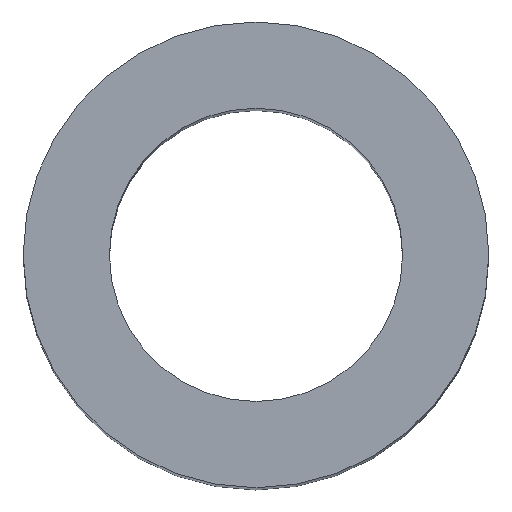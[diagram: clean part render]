
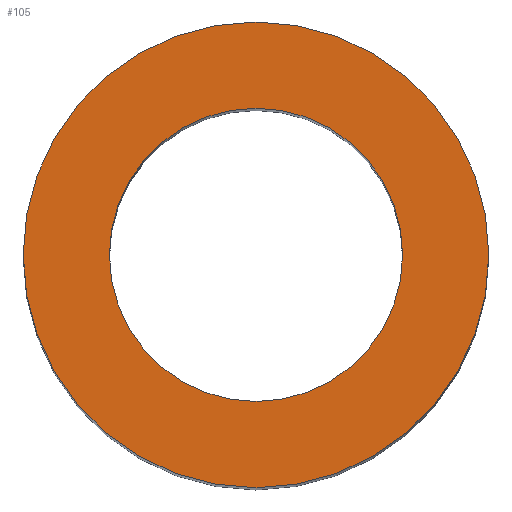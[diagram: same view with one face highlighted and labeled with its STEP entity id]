
A CAD part, top view. The second image highlights one B-rep face of the part: STEP entity #105.
In plain terms, the highlighted planar face has unit normal (0, 0, 1).
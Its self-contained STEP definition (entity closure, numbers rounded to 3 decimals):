
#21 = EDGE_CURVE('',#22,#22,#24,.T.);
#22 = VERTEX_POINT('',#23);
#23 = CARTESIAN_POINT('',(2.7,0.,15.2));
#24 = SURFACE_CURVE('',#25,(#30,#42),.PCURVE_S1.);
#25 = CIRCLE('',#26,2.7);
#26 = AXIS2_PLACEMENT_3D('',#27,#28,#29);
#27 = CARTESIAN_POINT('',(0.,0.,15.2));
#28 = DIRECTION('',(0.,0.,1.));
#29 = DIRECTION('',(1.,0.,-0.));
#30 = PCURVE('',#31,#36);
#31 = CYLINDRICAL_SURFACE('',#32,2.7);
#32 = AXIS2_PLACEMENT_3D('',#33,#34,#35);
#33 = CARTESIAN_POINT('',(0.,0.,0.));
#34 = DIRECTION('',(0.,0.,1.));
#35 = DIRECTION('',(1.,0.,-0.));
#36 = DEFINITIONAL_REPRESENTATION('',(#37),#41);
#37 = LINE('',#38,#39);
#38 = CARTESIAN_POINT('',(0.,15.2));
#39 = VECTOR('',#40,1.);
#40 = DIRECTION('',(1.,0.));
#41 = ( GEOMETRIC_REPRESENTATION_CONTEXT(2) 
PARAMETRIC_REPRESENTATION_CONTEXT() REPRESENTATION_CONTEXT('2D SPACE',''
  ) );
#42 = PCURVE('',#43,#48);
#43 = PLANE('',#44);
#44 = AXIS2_PLACEMENT_3D('',#45,#46,#47);
#45 = CARTESIAN_POINT('',(0.,0.,15.2));
#46 = DIRECTION('',(0.,0.,1.));
#47 = DIRECTION('',(1.,0.,-0.));
#48 = DEFINITIONAL_REPRESENTATION('',(#49),#53);
#49 = CIRCLE('',#50,2.7);
#50 = AXIS2_PLACEMENT_2D('',#51,#52);
#51 = CARTESIAN_POINT('',(0.,0.));
#52 = DIRECTION('',(1.,0.));
#53 = ( GEOMETRIC_REPRESENTATION_CONTEXT(2) 
PARAMETRIC_REPRESENTATION_CONTEXT() REPRESENTATION_CONTEXT('2D SPACE',''
  ) );
#105 = ADVANCED_FACE('',(#106,#109),#43,.T.);
#106 = FACE_BOUND('',#107,.T.);
#107 = EDGE_LOOP('',(#108));
#108 = ORIENTED_EDGE('',*,*,#21,.T.);
#109 = FACE_BOUND('',#110,.T.);
#110 = EDGE_LOOP('',(#111));
#111 = ORIENTED_EDGE('',*,*,#112,.F.);
#112 = EDGE_CURVE('',#113,#113,#115,.T.);
#113 = VERTEX_POINT('',#114);
#114 = CARTESIAN_POINT('',(1.7,0.,15.2));
#115 = SURFACE_CURVE('',#116,(#121,#128),.PCURVE_S1.);
#116 = CIRCLE('',#117,1.7);
#117 = AXIS2_PLACEMENT_3D('',#118,#119,#120);
#118 = CARTESIAN_POINT('',(0.,0.,15.2));
#119 = DIRECTION('',(0.,0.,1.));
#120 = DIRECTION('',(1.,0.,-0.));
#121 = PCURVE('',#43,#122);
#122 = DEFINITIONAL_REPRESENTATION('',(#123),#127);
#123 = CIRCLE('',#124,1.7);
#124 = AXIS2_PLACEMENT_2D('',#125,#126);
#125 = CARTESIAN_POINT('',(0.,0.));
#126 = DIRECTION('',(1.,0.));
#127 = ( GEOMETRIC_REPRESENTATION_CONTEXT(2) 
PARAMETRIC_REPRESENTATION_CONTEXT() REPRESENTATION_CONTEXT('2D SPACE',''
  ) );
#128 = PCURVE('',#129,#134);
#129 = CYLINDRICAL_SURFACE('',#130,1.7);
#130 = AXIS2_PLACEMENT_3D('',#131,#132,#133);
#131 = CARTESIAN_POINT('',(0.,0.,-1.));
#132 = DIRECTION('',(0.,0.,1.));
#133 = DIRECTION('',(1.,0.,-0.));
#134 = DEFINITIONAL_REPRESENTATION('',(#135),#139);
#135 = LINE('',#136,#137);
#136 = CARTESIAN_POINT('',(0.,16.2));
#137 = VECTOR('',#138,1.);
#138 = DIRECTION('',(1.,0.));
#139 = ( GEOMETRIC_REPRESENTATION_CONTEXT(2) 
PARAMETRIC_REPRESENTATION_CONTEXT() REPRESENTATION_CONTEXT('2D SPACE',''
  ) );
